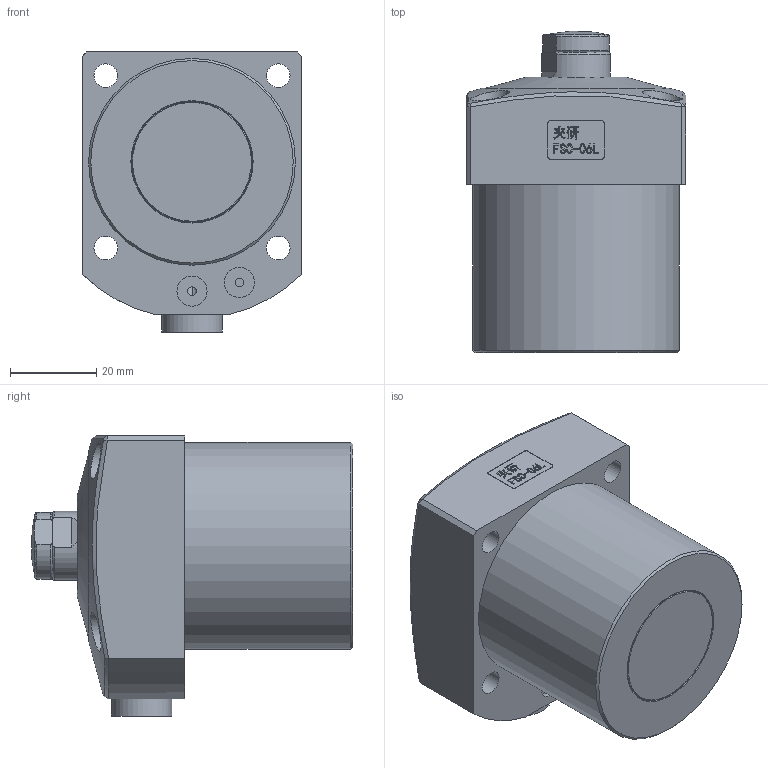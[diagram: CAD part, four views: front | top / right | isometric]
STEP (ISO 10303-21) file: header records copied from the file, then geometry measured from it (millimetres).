
FILE_DESCRIPTION(/* description */ (''),/* implementation_level */ '2;1');
FILE_NAME(/* name */ 'FSC-06L.stp',/* time_stamp */ '2022-05-04T13:51:10+08:00',/* author */ (''),/* organization */ (''),/* preprocessor_version */ 'ST-DEVELOPER v16.7',/* originating_system */ 'SIEMENS PLM Software NX 12.0',/* authorisation */ '');
FILE_SCHEMA (('AUTOMOTIVE_DESIGN { 1 0 10303 214 3 1 1 1 }'));
Length unit declared in the file: millimetre
Products named in the file (1): FSC-048BL
Bounding box: 51 x 74.6 x 65 mm (x, y, z)
Volume: 103209.8 mm3; surface area: 37981.1 mm2
Topology: 7 solids, 7 shells, 341 faces, 823 edges, 531 vertices
Faces by surface type: plane 161, extrusion 61, cylinder 51, cone 38, torus 21, bspline 8, sphere 1
Full cylindrical faces by diameter (mm): 2 x2, 4.5 x1, 5.5 x4, 7 x2, 7.5 x1, 8 x8, 8.4 x1, 8.5 x1, 8.6 x1, 9 x6, 10 x1, 14 x1, 16 x3, 21 x1, 23 x2, 28 x1, 38 x1, 40.3 x1, 43 x1, 43.001 x1, 44.003 x1, 48 x1
Entity records: 12531 total; most frequent: CARTESIAN_POINT 4087, ORIENTED_EDGE 1418, DIRECTION 1295, EDGE_CURVE 709, VERTEX_POINT 515, EDGE_LOOP 491, VECTOR 439, AXIS2_PLACEMENT_3D 428
